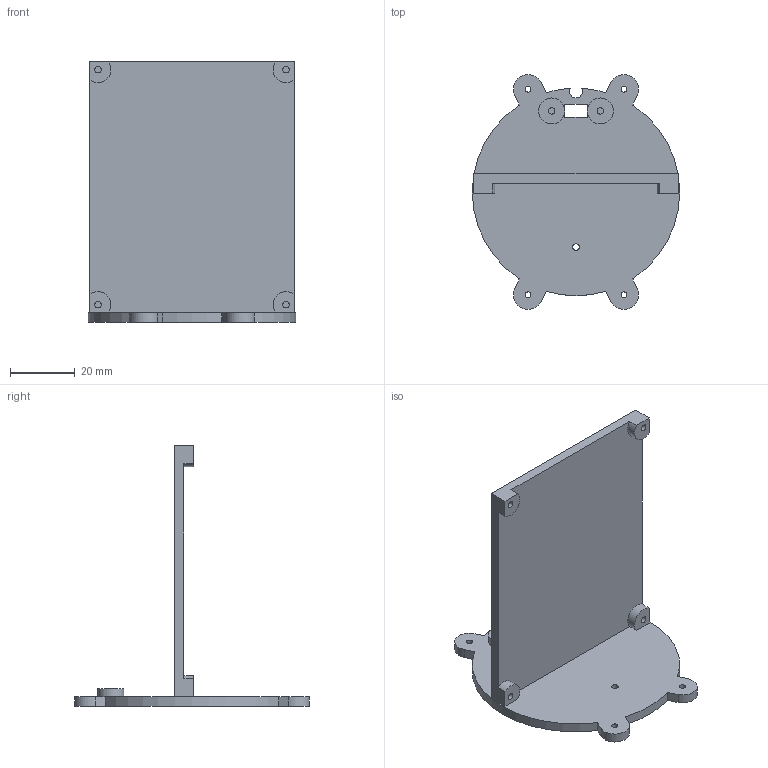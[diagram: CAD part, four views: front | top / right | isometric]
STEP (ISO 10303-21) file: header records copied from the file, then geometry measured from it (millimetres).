
FILE_DESCRIPTION(/* description */ (''),/* implementation_level */ '2;1');
FILE_NAME(/* name */ 'Bob Skull Modifications.step',/* time_stamp */ '2026-02-25T12:28:54-06:00',/* author */ (''),/* organization */ (''),/* preprocessor_version */ 'ST-DEVELOPER v20.1',/* originating_system */ 'Autodesk Translation Framework v14.24.0.0',/* authorisation */ '');
FILE_SCHEMA (('AUTOMOTIVE_DESIGN { 1 0 10303 214 3 1 1 }'));
Length unit declared in the file: millimetre
Products named in the file (1): Bob Skull Modifications
Bounding box: 64 x 72.42 x 80.5 mm (x, y, z)
Volume: 24994.8 mm3; surface area: 18561.4 mm2
Topology: 1 solids, 1 shells, 176 faces, 465 edges, 307 vertices
Faces by surface type: plane 74, bspline 64, cylinder 34, cone 4
Full cylindrical faces by diameter (mm): 1.8 x4, 2 x9, 8 x2, 25 x1
Entity records: 6095 total; most frequent: CARTESIAN_POINT 2038, ORIENTED_EDGE 932, DIRECTION 638, EDGE_CURVE 466, VERTEX_POINT 307, LINE 264, VECTOR 264, EDGE_LOOP 204
